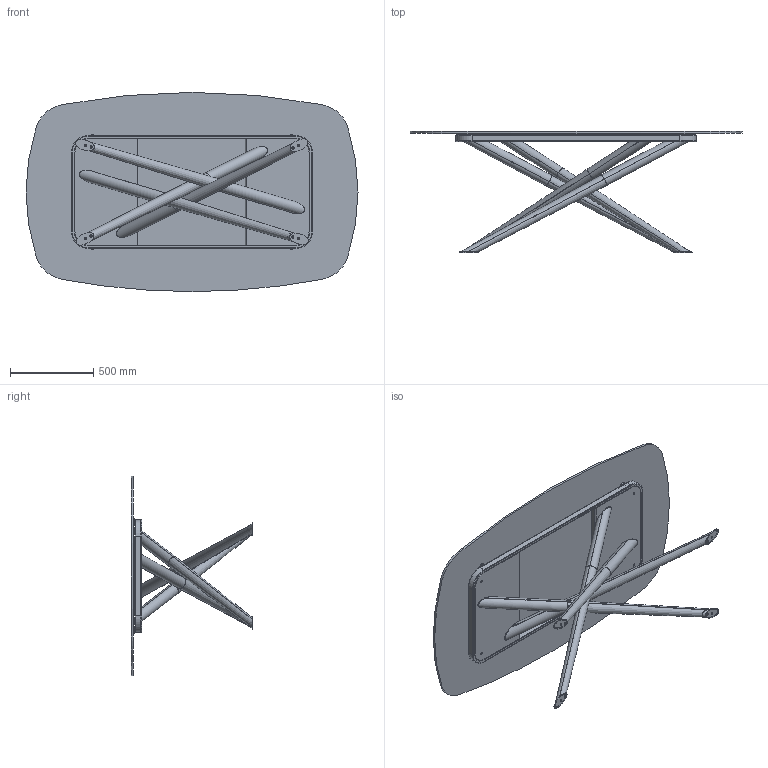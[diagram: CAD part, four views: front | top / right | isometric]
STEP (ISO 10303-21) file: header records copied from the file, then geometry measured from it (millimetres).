
FILE_DESCRIPTION (( 'STEP AP203' ), '1' );
FILE_NAME ('BA41G.STEP', '2024-08-08T06:05:57', ( '' ), ( '' ), 'SwSTEP 2.0', 'SolidWorks 2022', '' );
FILE_SCHEMA (( 'CONFIG_CONTROL_DESIGN' ));
Length unit declared in the file: millimetre
Products named in the file (9): M6xXXmm_HEX_M6x30mm HEX; TR Fastenings Ltd-M6_M6; BAB100000_02-00-piede per baly 240; 434070-00-PIEDINO TPV GOMMA NERO D. 30x8max18; BAB100000_01-00-Gambe saldate BALY 240_Default<A macchina>; BAB100000_03-00-Telaio BALY L240_Default<A macchina>; BAB100000-00-BALY BASE GREZZA L240 rettangolare; BA41G; C4XCRXX-00-Piani Sagomati in Cristallo_2000x1200
Assembly tree (24 placements, depth 3):
  BA41G
    C4XCRXX-00-Piani Sagomati in Cristallo_2000x1200
    BAB100000-00-BALY BASE GREZZA L240 rettangolare
      BAB100000_01-00-Gambe saldate BALY 240_Default<A macchina>
      BAB100000_03-00-Telaio BALY L240_Default<A macchina>
      BAB100000_02-00-piede per baly 240  x4
      TR Fastenings Ltd-M6_M6  x2
      M6xXXmm_HEX_M6x30mm HEX  x8
    434070-00-PIEDINO TPV GOMMA NERO D. 30x8max18  x6
Bounding box: 2000 x 731 x 1200 mm (x, y, z)
Volume: 31861076.9 mm3; surface area: 8648646.7 mm2
Topology: 39 solids, 39 shells, 685 faces, 1383 edges, 770 vertices
Faces by surface type: plane 310, cylinder 197, cone 88, torus 72, bspline 18
Entity records: 10372 total; most frequent: CARTESIAN_POINT 1745, DIRECTION 1647, ORIENTED_EDGE 1402, EDGE_CURVE 701, AXIS2_PLACEMENT_3D 647, VERTEX_POINT 401, EDGE_LOOP 374, VECTOR 353
